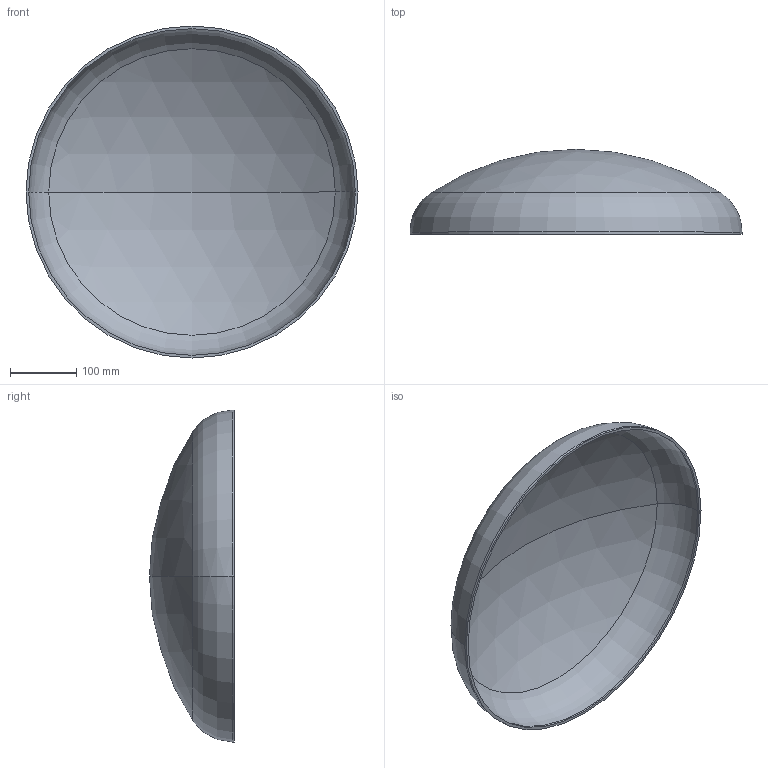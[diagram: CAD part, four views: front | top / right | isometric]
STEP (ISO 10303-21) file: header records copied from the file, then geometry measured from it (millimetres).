
FILE_DESCRIPTION (( 'STEP AP203' ), '1' );
FILE_NAME ('3D_R365_500x4_173374520.STEP', '2024-07-16T07:30:14', ( '' ), ( '' ), 'SwSTEP 2.0', 'SolidWorks 2024', '' );
FILE_SCHEMA (( 'CONFIG_CONTROL_DESIGN' ));
Length unit declared in the file: millimetre
Products named in the file (1): 3D_R365_500x4_173374520
Bounding box: 500 x 128 x 500 mm (x, y, z)
Volume: 1071870.1 mm3; surface area: 542201.2 mm2
Topology: 1 solids, 1 shells, 13 faces, 24 edges, 14 vertices
Faces by surface type: sphere 4, torus 4, cylinder 4, plane 1
Entity records: 407 total; most frequent: DIRECTION 72, CARTESIAN_POINT 52, ORIENTED_EDGE 48, AXIS2_PLACEMENT_3D 34, EDGE_CURVE 24, CIRCLE 20, EDGE_LOOP 14, VERTEX_POINT 14
